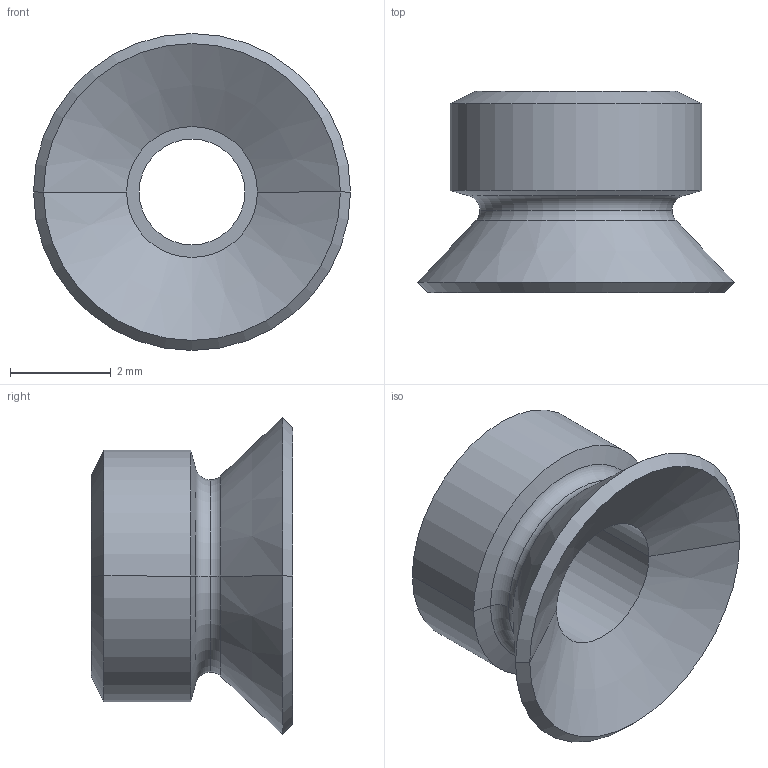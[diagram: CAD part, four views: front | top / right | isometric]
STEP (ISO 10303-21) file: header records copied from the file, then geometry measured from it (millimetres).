
FILE_DESCRIPTION (( 'STEP AP203' ), '1' );
FILE_NAME ('PFG_06--A.STEP', '2018-07-24T14:42:09', ( '' ), ( '' ), 'SwSTEP 2.0', 'SolidWorks 2016', '' );
FILE_SCHEMA (( 'CONFIG_CONTROL_DESIGN' ));
Length unit declared in the file: millimetre
Products named in the file (1): PFG_06--A
Bounding box: 6.3 x 4 x 6.3 mm (x, y, z)
Volume: 47.9 mm3; surface area: 140.5 mm2
Topology: 1 solids, 1 shells, 24 faces, 48 edges, 26 vertices
Faces by surface type: cone 12, cylinder 6, torus 4, plane 2
Entity records: 699 total; most frequent: DIRECTION 128, CARTESIAN_POINT 99, ORIENTED_EDGE 96, AXIS2_PLACEMENT_3D 55, EDGE_CURVE 48, CIRCLE 30, VERTEX_POINT 26, EDGE_LOOP 26
